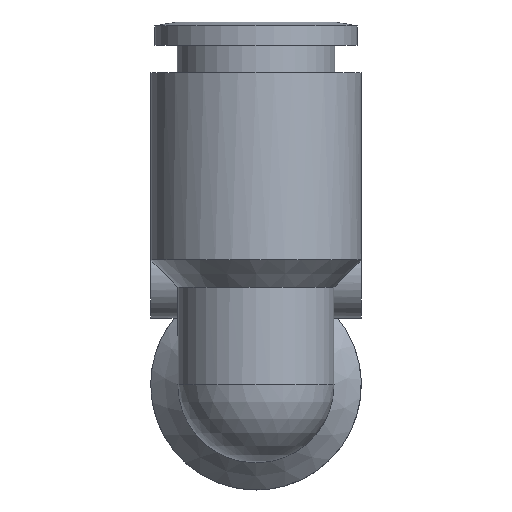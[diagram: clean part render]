
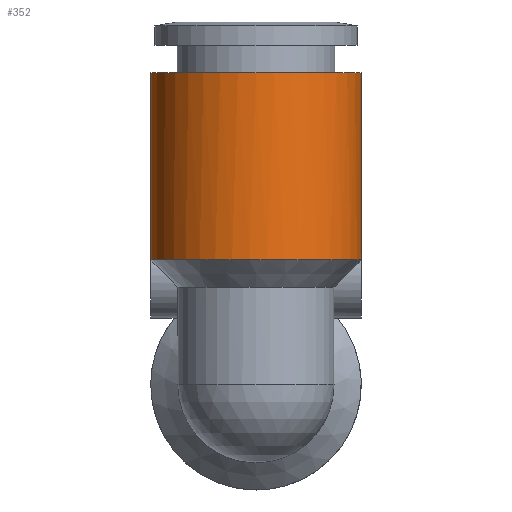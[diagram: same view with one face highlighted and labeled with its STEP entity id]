
A CAD part, front view. The second image highlights one B-rep face of the part: STEP entity #352.
In plain terms, the highlighted cylindrical face has radius 6.75 mm (diameter 13.5 mm), a full revolution.
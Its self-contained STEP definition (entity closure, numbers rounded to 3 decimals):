
#141=CARTESIAN_POINT('',(-5.086,4.438,8.));
#142=VERTEX_POINT('',#141);
#153=CARTESIAN_POINT('',(5.086,4.438,8.));
#154=VERTEX_POINT('',#153);
#155=CARTESIAN_POINT('',(5.086,4.438,8.));
#156=CARTESIAN_POINT('',(5.,4.537,8.252));
#157=CARTESIAN_POINT('',(4.878,4.669,8.477));
#158=CARTESIAN_POINT('',(4.739,4.807,8.659));
#159=CARTESIAN_POINT('',(4.487,5.055,8.987));
#160=CARTESIAN_POINT('',(4.172,5.325,9.2));
#161=CARTESIAN_POINT('',(3.806,5.575,9.352));
#162=CARTESIAN_POINT('',(3.328,5.901,9.55));
#163=CARTESIAN_POINT('',(2.763,6.192,9.637));
#164=CARTESIAN_POINT('',(2.154,6.397,9.683));
#165=CARTESIAN_POINT('',(1.58,6.59,9.727));
#166=CARTESIAN_POINT('',(0.967,6.708,9.735));
#167=CARTESIAN_POINT('',(0.364,6.74,9.738));
#168=CARTESIAN_POINT('',(0.035,6.758,9.739));
#169=CARTESIAN_POINT('',(-0.291,6.752,9.739));
#170=CARTESIAN_POINT('',(-0.622,6.721,9.736));
#171=CARTESIAN_POINT('',(-1.25,6.663,9.73));
#172=CARTESIAN_POINT('',(-1.881,6.513,9.717));
#173=CARTESIAN_POINT('',(-2.462,6.285,9.655));
#174=CARTESIAN_POINT('',(-3.06,6.051,9.592));
#175=CARTESIAN_POINT('',(-3.604,5.735,9.477));
#176=CARTESIAN_POINT('',(-4.055,5.396,9.234));
#177=CARTESIAN_POINT('',(-4.291,5.219,9.107));
#178=CARTESIAN_POINT('',(-4.502,5.036,8.945));
#179=CARTESIAN_POINT('',(-4.682,4.862,8.729));
#180=CARTESIAN_POINT('',(-4.804,4.745,8.585));
#181=CARTESIAN_POINT('',(-4.913,4.63,8.412));
#182=CARTESIAN_POINT('',(-5.002,4.533,8.215));
#183=CARTESIAN_POINT('',(-5.032,4.499,8.146));
#184=CARTESIAN_POINT('',(-5.061,4.467,8.074));
#185=CARTESIAN_POINT('',(-5.086,4.438,8.));
#186=B_SPLINE_CURVE_WITH_KNOTS('',3,(#155,#156,#157,#158,#159,#160,#161,#162,#163,#164,#165,#166,#167,#168,#169,#170,#171,#172,#173,#174,#175,#176,#177,#178,#179,#180,#181,#182,#183,#184,#185),.UNSPECIFIED.,.F.,.U.,(4,3,3,3,3,3,3,3,3,3,4),(-0.631,-0.551,-0.406,-0.215,-0.036,0.062,0.248,0.44,0.54,0.608,0.631),.UNSPECIFIED.);
#187=EDGE_CURVE('',#154,#142,#186,.T.);
#326=CARTESIAN_POINT('',(0.0,0.,14.0));
#327=DIRECTION('',(0.0,0.,1.0));
#328=DIRECTION('',(-1.0,0.0,0.0));
#329=AXIS2_PLACEMENT_3D('',#326,#327,#328);
#330=CYLINDRICAL_SURFACE('',#329,6.75);
#331=CARTESIAN_POINT('',(-6.75,0.,20.0));
#332=VERTEX_POINT('',#331);
#333=CARTESIAN_POINT('',(0.0,0.,20.0));
#334=DIRECTION('',(0.0,0.0,1.0));
#335=DIRECTION('',(-1.0,0.0,0.0));
#336=AXIS2_PLACEMENT_3D('',#333,#334,#335);
#337=CIRCLE('',#336,6.75);
#338=EDGE_CURVE('',#332,#332,#337,.T.);
#339=ORIENTED_EDGE('',*,*,#338,.F.);
#340=EDGE_LOOP('',(#339));
#341=FACE_OUTER_BOUND('',#340,.T.);
#342=ORIENTED_EDGE('',*,*,#187,.T.);
#343=CARTESIAN_POINT('',(0.0,0.,8.));
#344=DIRECTION('',(0.0,0.0,1.0));
#345=DIRECTION('',(-1.0,0.0,0.0));
#346=AXIS2_PLACEMENT_3D('',#343,#344,#345);
#347=CIRCLE('',#346,6.75);
#348=EDGE_CURVE('',#142,#154,#347,.T.);
#349=ORIENTED_EDGE('',*,*,#348,.T.);
#350=EDGE_LOOP('',(#342,#349));
#351=FACE_BOUND('',#350,.T.);
#352=ADVANCED_FACE('',(#341,#351),#330,.T.);
